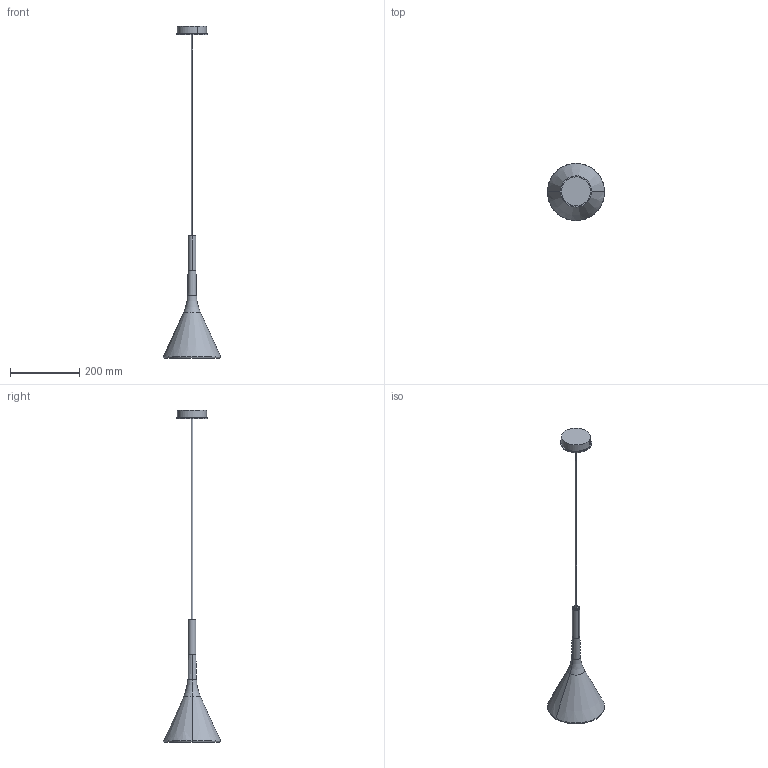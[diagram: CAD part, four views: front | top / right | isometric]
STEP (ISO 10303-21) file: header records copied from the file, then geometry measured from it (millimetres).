
FILE_DESCRIPTION (( 'STEP AP214' ), '1' );
FILE_NAME ('195_STD_S_PL_3D.STEP', '2021-05-18T10:47:49', ( '' ), ( '' ), 'SwSTEP 2.0', 'SolidWorks 2021', '' );
FILE_SCHEMA (( 'AUTOMOTIVE_DESIGN' ));
Length unit declared in the file: millimetre
Products named in the file (1): 195_STD_S_PL_3D
Bounding box: 165.99 x 165.99 x 958.2 mm (x, y, z)
Volume: 834130.6 mm3; surface area: 153104.5 mm2
Topology: 3 solids, 3 shells, 64 faces, 126 edges, 74 vertices
Faces by surface type: torus 18, cylinder 18, cone 16, plane 12
Entity records: 2426 total; most frequent: DIRECTION 348, CARTESIAN_POINT 265, ORIENTED_EDGE 252, AXIS2_PLACEMENT_3D 157, EDGE_CURVE 126, CIRCLE 92, VERTEX_POINT 74, EDGE_LOOP 74
